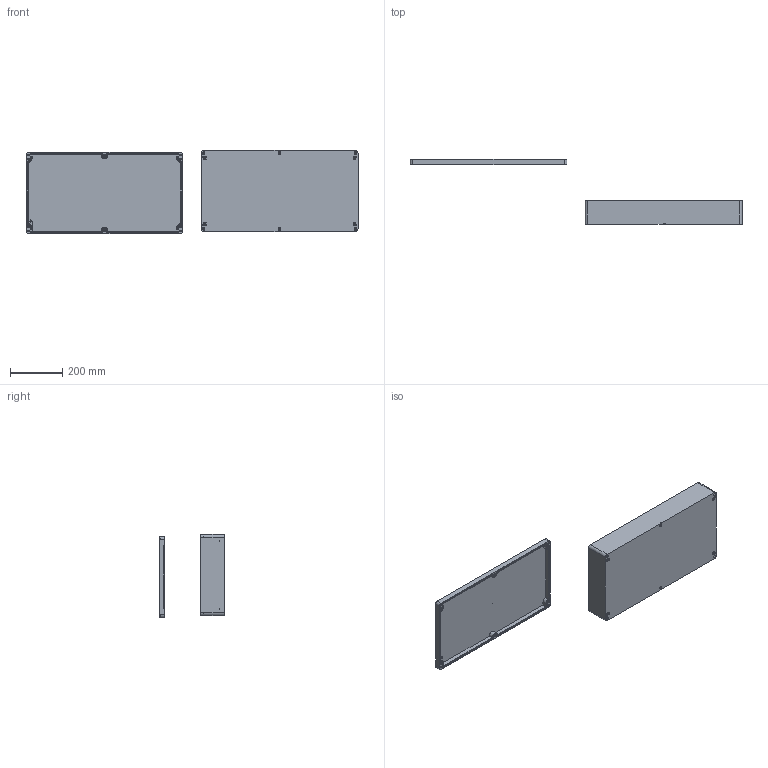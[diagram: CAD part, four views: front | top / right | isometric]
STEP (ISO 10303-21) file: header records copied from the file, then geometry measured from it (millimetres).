
FILE_DESCRIPTION (( 'STEP AP203' ), '1' );
FILE_NAME ('ZX-AL-316011_装配体.STEP', '2022-01-24T09:51:00', ( '微软用户' ), ( '微软中国' ), 'SwSTEP 2.0', 'SolidWorks 2020', '' );
FILE_SCHEMA (( 'CONFIG_CONTROL_DESIGN' ));
Length unit declared in the file: millimetre
Products named in the file (3): ZX-AL-316011_狟; ZX-AL-316011_蚾饜极; ZX-AL-316011_奻
Assembly tree (2 placements, depth 2):
  ZX-AL-316011_蚾饜极
    ZX-AL-316011_狟
    ZX-AL-316011_奻
Bounding box: 1269.19 x 249.67 x 317.93 mm (x, y, z)
Volume: 3151822.6 mm3; surface area: 1171383.3 mm2
Topology: 2 solids, 2 shells, 755 faces, 2032 edges, 1317 vertices
Faces by surface type: plane 356, cylinder 220, bspline 123, cone 56
Entity records: 29385 total; most frequent: CARTESIAN_POINT 10738, ORIENTED_EDGE 4020, DIRECTION 3440, EDGE_CURVE 2010, VERTEX_POINT 1317, VECTOR 1314, LINE 1314, AXIS2_PLACEMENT_3D 1063
